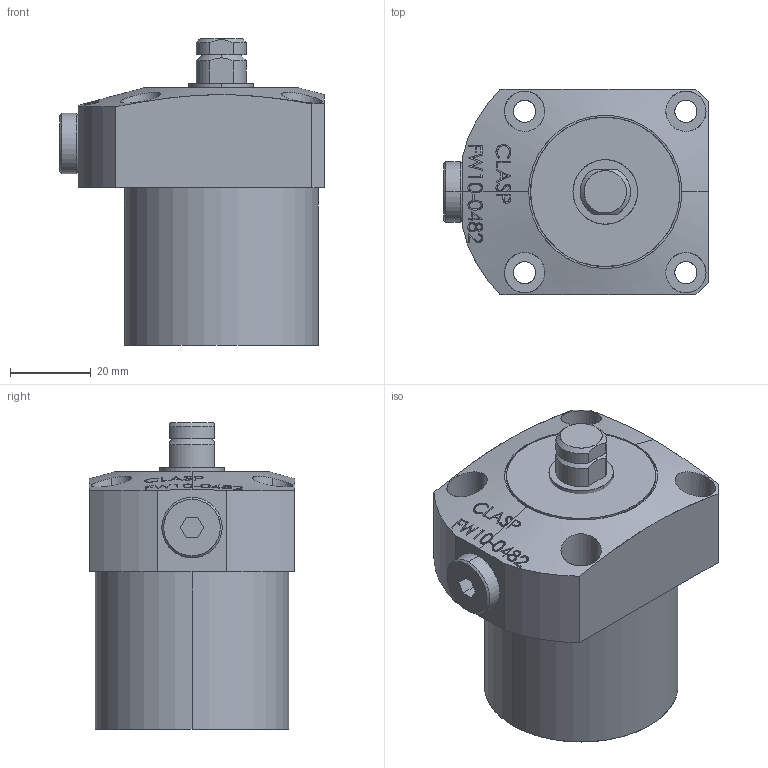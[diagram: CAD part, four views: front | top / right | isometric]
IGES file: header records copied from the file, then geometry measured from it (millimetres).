
Start section: SolidWorks IGES file using analytic representation for surfaces
Global section: file name: D:\karuppas\Clasp\3D model\Work support\Work support FW10-0482\FW10-0482 Work support.IGS; native system: SolidWorks 2017; preprocessor: SolidWorks 2017; author: pc; date: 220709.224158; units: millimetre
Bounding box: 65.5 x 51 x 76 mm (x, y, z)
Surface area: 23538.2 mm2 (no closed solid volume)
Topology: 0 solids, 0 shells, 264 faces, 4478 edges, 4476 vertices
Faces by surface type: bspline 201, revolution 63
